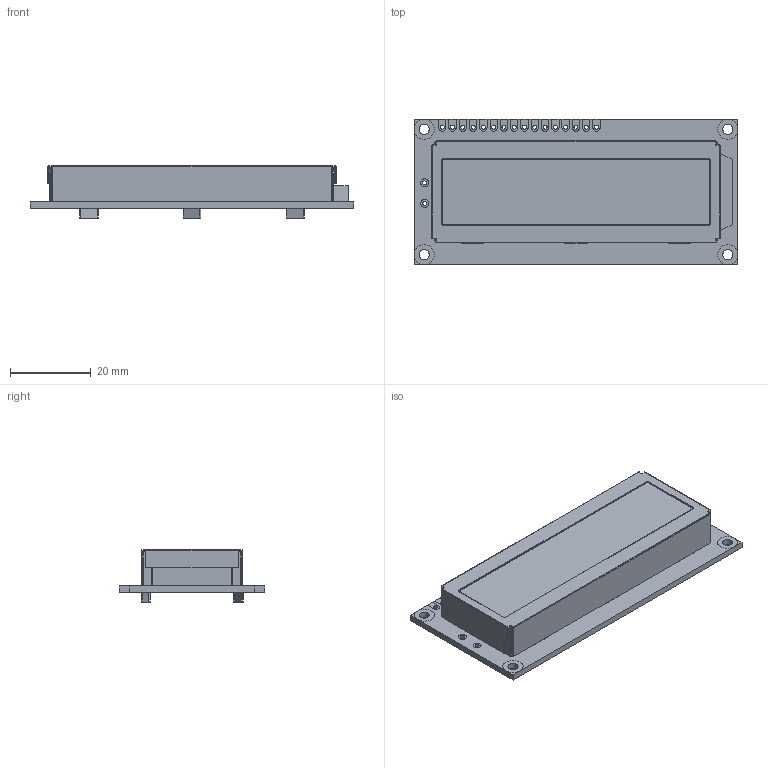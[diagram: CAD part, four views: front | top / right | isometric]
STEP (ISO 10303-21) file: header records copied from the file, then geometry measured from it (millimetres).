
FILE_DESCRIPTION(('STEP AP214'),'1');
FILE_NAME('tmp0.STEP','2018-12-07T14:52:52',(' '),(' '),'Spatial InterOp 3D',' ',' ');
FILE_SCHEMA(('automotive_design'));
Length unit declared in the file: millimetre
Products named in the file (45): 1; 2; 3; 4; 5; 6; 7; 8; 9; 10; 11; 12; 13; 14; 15; 16; 17; 18; 19; 20; 21; 22; 23; 24; 25; 26; 27; 28; 29; 30; 31; 32; 33; 34; 35; 36; 37; 38; 39; 40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
Bounding box: 80 x 36 x 12.93 mm (x, y, z)
Volume: 20859.5 mm3; surface area: 21346.8 mm2
Topology: 45 solids, 45 shells, 514 faces, 1240 edges, 808 vertices
Faces by surface type: plane 314, cylinder 184, sphere 8, torus 8
Entity records: 20185 total; most frequent: DIRECTION 2726, CARTESIAN_POINT 2599, ORIENTED_EDGE 2464, EDGE_CURVE 1232, AXIS2_PLACEMENT_3D 935, LINE 856, VECTOR 856, VERTEX_POINT 808
